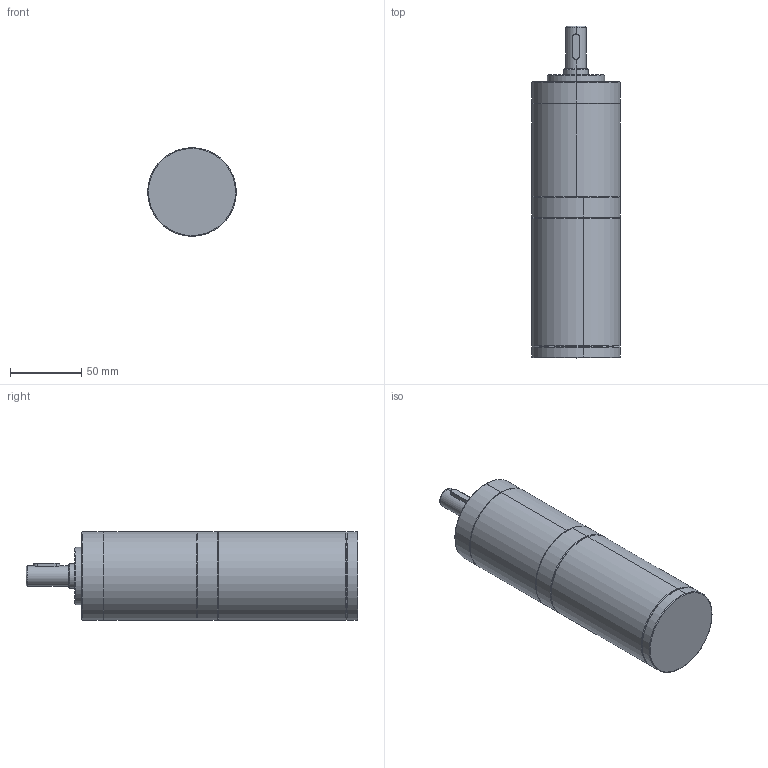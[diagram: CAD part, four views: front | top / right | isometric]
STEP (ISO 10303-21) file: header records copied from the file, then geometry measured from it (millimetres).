
FILE_DESCRIPTION (( 'STEP AP203' ), '1' );
FILE_NAME ('62BLD90W减速比三级整机.STEP', '2021-07-16T04:29:30', ( '' ), ( '' ), 'SwSTEP 2.0', 'SolidWorks 2021', '' );
FILE_SCHEMA (( 'CONFIG_CONTROL_DESIGN' ));
Length unit declared in the file: millimetre
Products named in the file (3): 62BLD90W减速比三级整机; 62酗; 62PN三级
Assembly tree (2 placements, depth 2):
  62BLD90W减速比三级整机
    62PN三级
    62酗
Bounding box: 62 x 232.3 x 62 mm (x, y, z)
Volume: 586797.6 mm3; surface area: 54706.7 mm2
Topology: 2 solids, 2 shells, 157 faces, 349 edges, 205 vertices
Faces by surface type: plane 51, cylinder 48, cone 42, bspline 12, torus 4
Entity records: 4902 total; most frequent: CARTESIAN_POINT 1154, DIRECTION 773, ORIENTED_EDGE 678, EDGE_CURVE 339, AXIS2_PLACEMENT_3D 300, VERTEX_POINT 205, EDGE_LOOP 176, LINE 173
